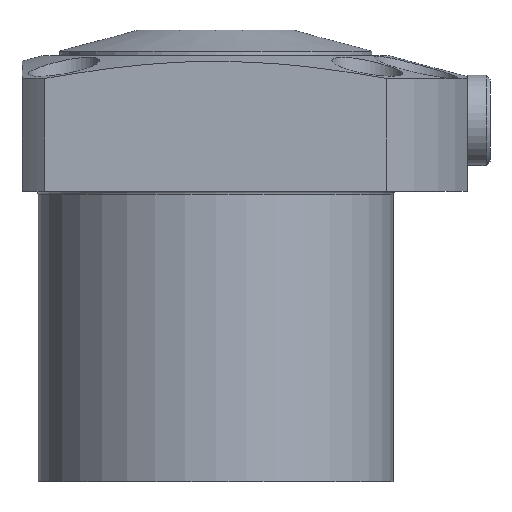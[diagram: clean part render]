
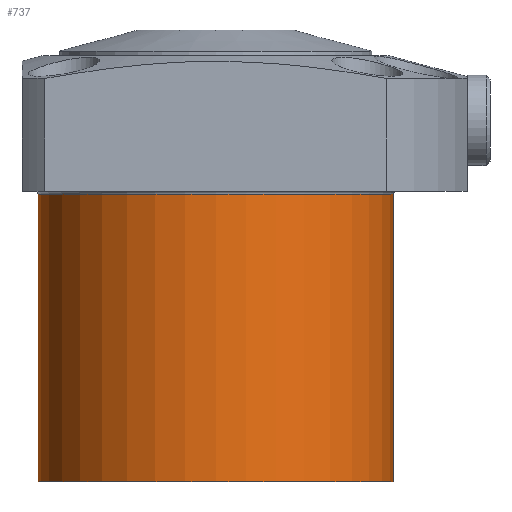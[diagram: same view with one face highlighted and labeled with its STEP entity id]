
A CAD part, front view. The second image highlights one B-rep face of the part: STEP entity #737.
In plain terms, the highlighted cylindrical face has radius 27.5 mm (diameter 55 mm), a partial arc.
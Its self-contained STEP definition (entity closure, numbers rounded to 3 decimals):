
#611=CYLINDRICAL_SURFACE('',#3084,27.5);
#737=ADVANCED_FACE('',(#932),#611,.T.);
#932=FACE_OUTER_BOUND('',#1085,.T.);
#1085=EDGE_LOOP('',(#1887,#1888,#1889,#1890));
#1258=LINE('',#4588,#1402);
#1259=LINE('',#4590,#1403);
#1402=VECTOR('',#3547,1.);
#1403=VECTOR('',#3550,1.);
#1887=ORIENTED_EDGE('',*,*,#2518,.F.);
#1888=ORIENTED_EDGE('',*,*,#2616,.T.);
#1889=ORIENTED_EDGE('',*,*,#2520,.T.);
#1890=ORIENTED_EDGE('',*,*,#2460,.T.);
#2229=VERTEX_POINT('',#4387);
#2230=VERTEX_POINT('',#4388);
#2269=VERTEX_POINT('',#4586);
#2270=VERTEX_POINT('',#4587);
#2460=EDGE_CURVE('',#2229,#2230,#2709,.T.);
#2518=EDGE_CURVE('',#2270,#2230,#1258,.T.);
#2520=EDGE_CURVE('',#2269,#2229,#1259,.T.);
#2616=EDGE_CURVE('',#2270,#2269,#2802,.T.);
#2709=CIRCLE('',#2931,27.5);
#2802=CIRCLE('',#3082,27.5);
#2931=AXIS2_PLACEMENT_3D('',#4386,#3437,#3438);
#3082=AXIS2_PLACEMENT_3D('',#4787,#3795,#3796);
#3084=AXIS2_PLACEMENT_3D('',#4789,#3799,#3800);
#3437=DIRECTION('',(0.,0.,-1.));
#3438=DIRECTION('',(-1.,0.,0.));
#3547=DIRECTION('',(0.,0.,1.));
#3550=DIRECTION('',(0.,0.,1.));
#3795=DIRECTION('',(0.,0.,1.));
#3796=DIRECTION('',(1.,0.,0.));
#3799=DIRECTION('',(0.,0.,1.));
#3800=DIRECTION('',(-1.,0.,0.));
#4386=CARTESIAN_POINT('',(0.,0.,-0.4));
#4387=CARTESIAN_POINT('',(27.5,0.,-0.4));
#4388=CARTESIAN_POINT('',(-27.5,0.,-0.4));
#4586=CARTESIAN_POINT('',(27.5,0.,-45.));
#4587=CARTESIAN_POINT('',(-27.5,0.,-45.));
#4588=CARTESIAN_POINT('',(-27.5,0.,35.));
#4590=CARTESIAN_POINT('',(27.5,0.,35.));
#4787=CARTESIAN_POINT('',(0.,0.,-45.));
#4789=CARTESIAN_POINT('',(0.,0.,35.));
